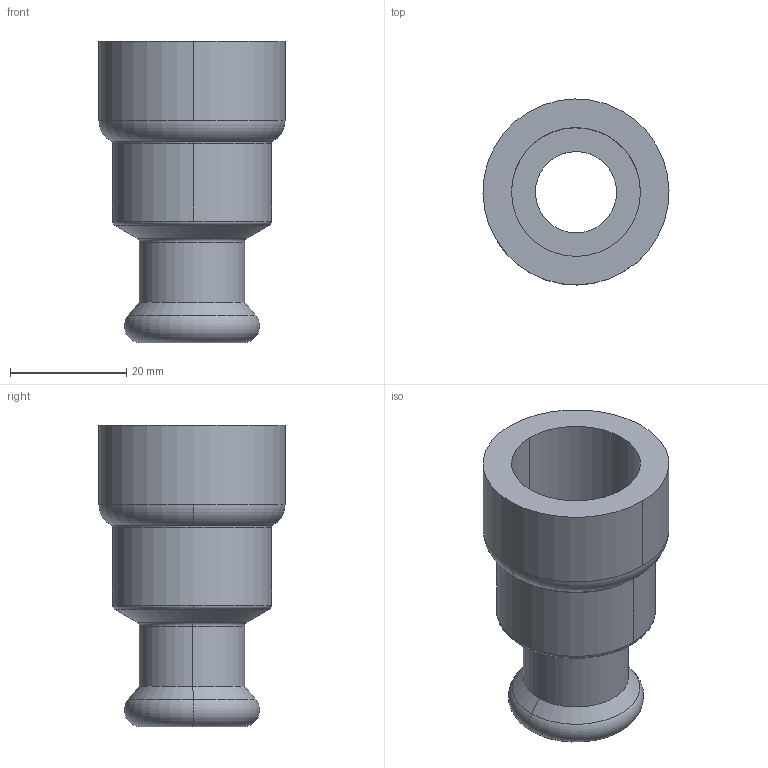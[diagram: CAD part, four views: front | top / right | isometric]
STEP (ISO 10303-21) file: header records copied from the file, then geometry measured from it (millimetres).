
FILE_DESCRIPTION(('Creo Elements/Direct Modeling STEP Export'),'2;1');
FILE_NAME('C9441_1-2_15.stp','2020-07-20T12:06:24',(''),(''),'PTC Creo Elements/Direct Modeling STEP processor for AP214 (Solid Model)','PTC Creo Elements/Direct Modeling 19.0C 15-Aug-2015 (C) Parametric Technology GmbH','');
FILE_SCHEMA(('AUTOMOTIVE_DESIGN { 1 0 10303 214 1 1 1 1 }'));
Length unit declared in the file: millimetre
Products named in the file (1): C9441_1-2_15
Bounding box: 32.05 x 32.05 x 51.91 mm (x, y, z)
Volume: 13215.2 mm3; surface area: 8491.6 mm2
Topology: 1 solids, 1 shells, 30 faces, 67 edges, 41 vertices
Faces by surface type: cylinder 12, torus 10, plane 4, cone 4
Entity records: 760 total; most frequent: ORIENTED_EDGE 134, DIRECTION 132, CARTESIAN_POINT 115, EDGE_CURVE 67, AXIS2_PLACEMENT_3D 58, VERTEX_POINT 41, EDGE_LOOP 34, FACE_OUTER_BOUND 30
